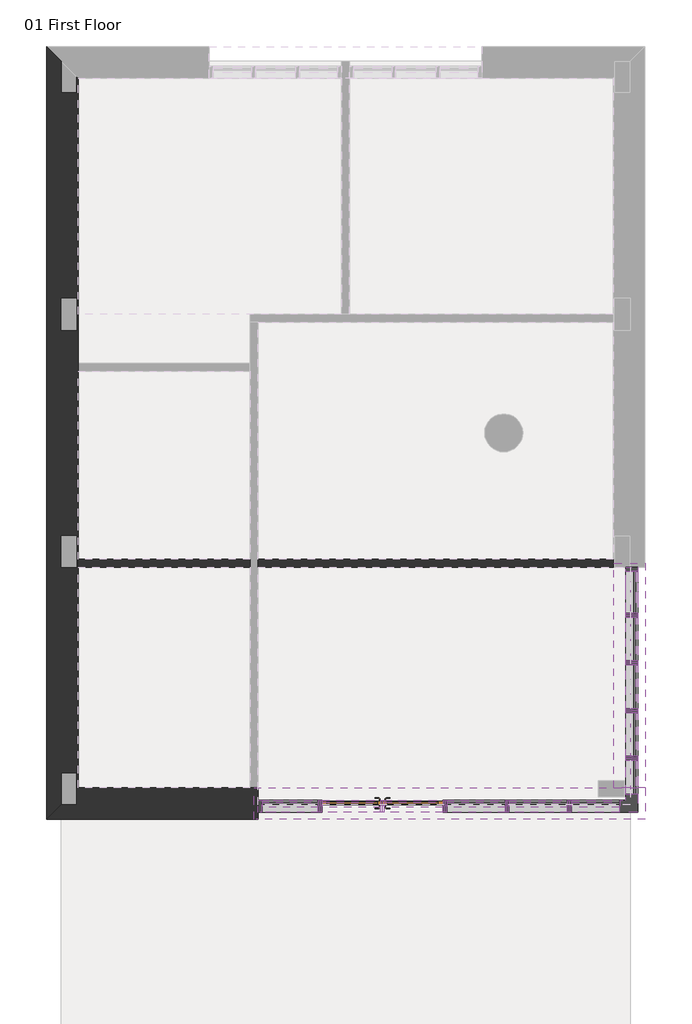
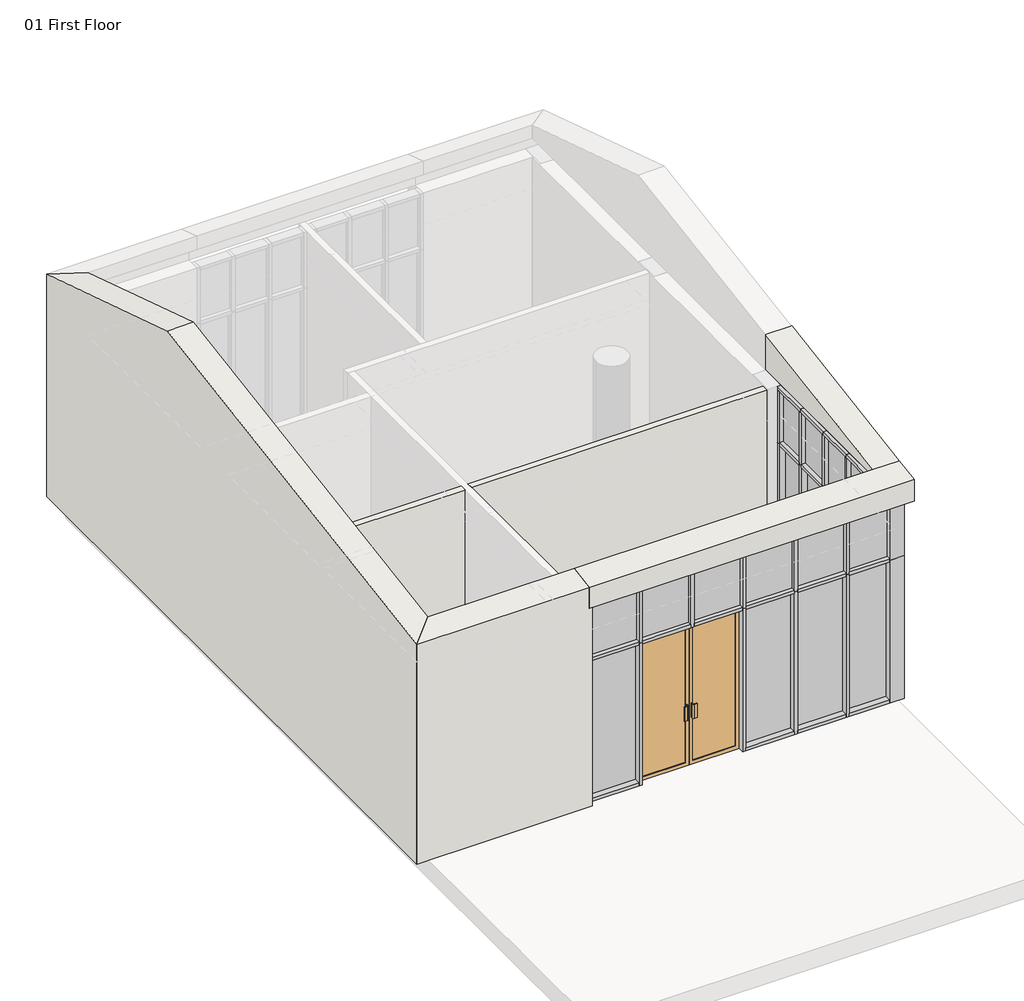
# One storey, part 1 of 2: 54 members, 20 plates, 5 walls, 1 door.
"""IFC4 building model written with IfcOpenShell, lengths in millimetres."""

from ifc_helpers import new_model, si_unit, frame, origin, place, context, project, spatial, polyline, outline, extrude, faceted_brep, transform, mapped, element, save
from components import m_door_curtain_wall_double_storefront_m_door_curtain_wall_8dde1bc9, l_corner_mullion_l_mullion_1_1d961c4e, l_corner_mullion_l_mullion_1_b63ad59a, rectangular_mullion_50_x_150mm_324a6438, rectangular_mullion_50_x_150mm_8753ce05, rectangular_mullion_50_x_150mm_f70f74d1, rectangular_mullion_50_x_150mm_f478ca5a, rectangular_mullion_50_x_150mm_1075d9c1, rectangular_mullion_50_x_150mm_44fe3089, rectangular_mullion_50_x_150mm_80f63b0b, rectangular_mullion_50_x_150mm_db5acec3, rectangular_mullion_50_x_150mm_cae2f493, rectangular_mullion_50_x_150mm_9a38d7ad, rectangular_mullion_50_x_150mm_a8401840, rectangular_mullion_50_x_150mm_3184acce, rectangular_mullion_50_x_150mm_4e612c1a, rectangular_mullion_50_x_150mm_7d2f3f35, rectangular_mullion_50_x_150mm_7a805af3, rectangular_mullion_50_x_150mm_b6bf1841, rectangular_mullion_50_x_150mm_342cd1b8, rectangular_mullion_50_x_150mm_27f82533, rectangular_mullion_50_x_150mm_39193753, rectangular_mullion_50_x_150mm_15dee4e3, rectangular_mullion_50_x_150mm_f704ff47, rectangular_mullion_50_x_150mm_af0ba744, rectangular_mullion_50_x_150mm_731e338c, system_panel_glazed_6aca887c, system_panel_glazed_76cff112, system_panel_glazed_0cbce7a5, system_panel_glazed_834570a4, system_panel_glazed_a0e57360, system_panel_glazed_11854295, system_panel_solid_ce425cba, system_panel_solid_9ac85d2e, system_panel_solid_fdd704db, system_panel_solid_505ec3b0, system_panel_solid_37a388a8, system_panel_solid_d4510be5

model = new_model("IFC4")

# Units and contexts
model_context = context("Model", 3, world=origin())
ifc_project = project(units=[si_unit("LENGTHUNIT", "METRE", prefix="MILLI")], contexts=[model_context])

# Site, building, storey
site = spatial("IfcSite", under=ifc_project)
building = spatial("IfcBuilding", under=site)
storey = spatial("IfcBuildingStorey", under=building, Name="01 First Floor", Elevation=3500.0)

# Door
placement = place(None, origin())
m_door_curtain_wall_double_storefront_m_door_curtain_wall_shape = m_door_curtain_wall_double_storefront_m_door_curtain_wall_8dde1bc9(model_context)
element("IfcDoor", 1, ObjectType="M_Door-Curtain-Wall-Double-Storefront : M_Door-Curtain-Wall-Double-Storefront", at=placement, inside=storey, context=model_context, shape_type="MappedRepresentation", body=[
    mapped(m_door_curtain_wall_double_storefront_m_door_curtain_wall_shape, transform((-4255.8741332, -3082.7101648, 3500.0), x_axis=(1.0, 0.0, 0.0), y_axis=(0.0, 1.0, 0.0), z_axis=(0.0, 0.0, 1.0))),
])

# Members
l_corner_mullion_l_mullion_1_shape = l_corner_mullion_l_mullion_1_1d961c4e(model_context)
element("IfcMember", 2, ObjectType="L Corner Mullion : L Mullion 1", at=placement, inside=storey, context=model_context, shape_type="MappedRepresentation", body=[
    mapped(l_corner_mullion_l_mullion_1_shape, transform((-1102.5407999, -3082.7101648, 5800.0), x_axis=(0.0, -1.0, 0.0), y_axis=(1.0, 0.0, 0.0), z_axis=(0.0, 0.0, 1.0))),
])
l_corner_mullion_l_mullion_1_2_shape = l_corner_mullion_l_mullion_1_b63ad59a(model_context)
element("IfcMember", 3, ObjectType="L Corner Mullion : L Mullion 1", at=placement, inside=storey, context=model_context, shape_type="MappedRepresentation", body=[
    mapped(l_corner_mullion_l_mullion_1_2_shape, transform((-1102.5407999, -3082.7101648, 6700.0), x_axis=(0.0, -1.0, 0.0), y_axis=(1.0, 0.0, 0.0), z_axis=(0.0, 0.0, 1.0))),
])
rectangular_mullion_50_x_150mm_shape = rectangular_mullion_50_x_150mm_324a6438(model_context)
element("IfcMember", 4, ObjectType="Rectangular Mullion : 50 x 150mm", at=placement, inside=storey, context=model_context, shape_type="MappedRepresentation", body=[
    mapped(rectangular_mullion_50_x_150mm_shape, transform((-5832.5407999, -3082.7101648, 6650.0), x_axis=(-1.0, 0.0, 0.0), y_axis=(0.0, -1.0, 0.0), z_axis=(0.0, 0.0, 1.0))),
])
rectangular_mullion_50_x_150mm_2_shape = rectangular_mullion_50_x_150mm_8753ce05(model_context)
element("IfcMember", 5, ObjectType="Rectangular Mullion : 50 x 150mm", at=placement, inside=storey, context=model_context, shape_type="MappedRepresentation", body=[
    mapped(rectangular_mullion_50_x_150mm_2_shape, transform((-5832.5407999, -3082.7101648, 5800.0), x_axis=(-1.0, 0.0, 0.0), y_axis=(0.0, -1.0, 0.0), z_axis=(0.0, 0.0, 1.0))),
])
rectangular_mullion_50_x_150mm_3_shape = rectangular_mullion_50_x_150mm_f70f74d1(model_context)
element("IfcMember", 6, ObjectType="Rectangular Mullion : 50 x 150mm", at=placement, inside=storey, context=model_context, shape_type="MappedRepresentation", body=[
    mapped(rectangular_mullion_50_x_150mm_3_shape, transform((-5044.2074664, -3082.7101648, 3500.0), x_axis=(1.0, 0.0, 0.0), y_axis=(0.0, -1.0, 0.0), z_axis=(0.0, 0.0, -1.0))),
])
element("IfcMember", 7, ObjectType="Rectangular Mullion : 50 x 150mm", at=placement, inside=storey, context=model_context, shape_type="MappedRepresentation", body=[
    mapped(rectangular_mullion_50_x_150mm_3_shape, transform((-3467.5407999, -3082.7101648, 3500.0), x_axis=(1.0, 0.0, 0.0), y_axis=(0.0, -1.0, 0.0), z_axis=(0.0, 0.0, -1.0))),
])
element("IfcMember", 8, ObjectType="Rectangular Mullion : 50 x 150mm", at=placement, inside=storey, context=model_context, shape_type="MappedRepresentation", body=[
    mapped(rectangular_mullion_50_x_150mm_3_shape, transform((-2679.2074667, -3082.7101648, 3500.0), x_axis=(1.0, 0.0, 0.0), y_axis=(0.0, -1.0, 0.0), z_axis=(0.0, 0.0, -1.0))),
])
element("IfcMember", 9, ObjectType="Rectangular Mullion : 50 x 150mm", at=placement, inside=storey, context=model_context, shape_type="MappedRepresentation", body=[
    mapped(rectangular_mullion_50_x_150mm_3_shape, transform((-1890.8741335, -3082.7101648, 3500.0), x_axis=(1.0, 0.0, 0.0), y_axis=(0.0, -1.0, 0.0), z_axis=(0.0, 0.0, -1.0))),
])
rectangular_mullion_50_x_150mm_4_shape = rectangular_mullion_50_x_150mm_f478ca5a(model_context)
element("IfcMember", 10, ObjectType="Rectangular Mullion : 50 x 150mm", at=placement, inside=storey, context=model_context, shape_type="MappedRepresentation", body=[
    mapped(rectangular_mullion_50_x_150mm_4_shape, transform((-5044.2074664, -3082.7101648, 5800.0), x_axis=(1.0, 0.0, 0.0), y_axis=(0.0, -1.0, 0.0), z_axis=(0.0, 0.0, -1.0))),
])
element("IfcMember", 11, ObjectType="Rectangular Mullion : 50 x 150mm", at=placement, inside=storey, context=model_context, shape_type="MappedRepresentation", body=[
    mapped(rectangular_mullion_50_x_150mm_4_shape, transform((-3467.5407999, -3082.7101648, 5800.0), x_axis=(1.0, 0.0, 0.0), y_axis=(0.0, -1.0, 0.0), z_axis=(0.0, 0.0, -1.0))),
])
element("IfcMember", 12, ObjectType="Rectangular Mullion : 50 x 150mm", at=placement, inside=storey, context=model_context, shape_type="MappedRepresentation", body=[
    mapped(rectangular_mullion_50_x_150mm_4_shape, transform((-2679.2074667, -3082.7101648, 5800.0), x_axis=(1.0, 0.0, 0.0), y_axis=(0.0, -1.0, 0.0), z_axis=(0.0, 0.0, -1.0))),
])
element("IfcMember", 13, ObjectType="Rectangular Mullion : 50 x 150mm", at=placement, inside=storey, context=model_context, shape_type="MappedRepresentation", body=[
    mapped(rectangular_mullion_50_x_150mm_4_shape, transform((-1890.8741335, -3082.7101648, 5800.0), x_axis=(1.0, 0.0, 0.0), y_axis=(0.0, -1.0, 0.0), z_axis=(0.0, 0.0, -1.0))),
])
rectangular_mullion_50_x_150mm_5_shape = rectangular_mullion_50_x_150mm_1075d9c1(model_context)
element("IfcMember", 14, ObjectType="Rectangular Mullion : 50 x 150mm", at=placement, inside=storey, context=model_context, shape_type="MappedRepresentation", body=[
    mapped(rectangular_mullion_50_x_150mm_5_shape, transform((-4255.8741332, -3082.7101648, 5775.0), x_axis=(1.0, 0.0, 0.0), y_axis=(0.0, -1.0, 0.0), z_axis=(0.0, 0.0, -1.0))),
])
element("IfcMember", 15, ObjectType="Rectangular Mullion : 50 x 150mm", at=placement, inside=storey, context=model_context, shape_type="MappedRepresentation", body=[
    mapped(rectangular_mullion_50_x_150mm_3_shape, transform((-1102.5407999, -2478.7101646, 3500.0), x_axis=(0.0, 1.0, 0.0), y_axis=(1.0, 0.0, 0.0), z_axis=(0.0, 0.0, -1.0))),
])
element("IfcMember", 16, ObjectType="Rectangular Mullion : 50 x 150mm", at=placement, inside=storey, context=model_context, shape_type="MappedRepresentation", body=[
    mapped(rectangular_mullion_50_x_150mm_3_shape, transform((-1102.5407999, -1874.7101647, 3500.0), x_axis=(0.0, 1.0, 0.0), y_axis=(1.0, 0.0, 0.0), z_axis=(0.0, 0.0, -1.0))),
])
element("IfcMember", 17, ObjectType="Rectangular Mullion : 50 x 150mm", at=placement, inside=storey, context=model_context, shape_type="MappedRepresentation", body=[
    mapped(rectangular_mullion_50_x_150mm_3_shape, transform((-1102.5407999, -1270.7101648, 3500.0), x_axis=(0.0, 1.0, 0.0), y_axis=(1.0, 0.0, 0.0), z_axis=(0.0, 0.0, -1.0))),
])
element("IfcMember", 18, ObjectType="Rectangular Mullion : 50 x 150mm", at=placement, inside=storey, context=model_context, shape_type="MappedRepresentation", body=[
    mapped(rectangular_mullion_50_x_150mm_3_shape, transform((-1102.5407999, -666.7101649, 3500.0), x_axis=(0.0, 1.0, 0.0), y_axis=(1.0, 0.0, 0.0), z_axis=(0.0, 0.0, -1.0))),
])
element("IfcMember", 19, ObjectType="Rectangular Mullion : 50 x 150mm", at=placement, inside=storey, context=model_context, shape_type="MappedRepresentation", body=[
    mapped(rectangular_mullion_50_x_150mm_2_shape, transform((-1102.5407999, -62.7101648, 3500.0), x_axis=(0.0, 1.0, 0.0), y_axis=(1.0, 0.0, 0.0), z_axis=(0.0, 0.0, -1.0))),
])
element("IfcMember", 20, ObjectType="Rectangular Mullion : 50 x 150mm", at=placement, inside=storey, context=model_context, shape_type="MappedRepresentation", body=[
    mapped(rectangular_mullion_50_x_150mm_4_shape, transform((-1102.5407999, -2478.7101646, 5800.0), x_axis=(0.0, 1.0, 0.0), y_axis=(1.0, 0.0, 0.0), z_axis=(0.0, 0.0, -1.0))),
])
element("IfcMember", 21, ObjectType="Rectangular Mullion : 50 x 150mm", at=placement, inside=storey, context=model_context, shape_type="MappedRepresentation", body=[
    mapped(rectangular_mullion_50_x_150mm_4_shape, transform((-1102.5407999, -1874.7101647, 5800.0), x_axis=(0.0, 1.0, 0.0), y_axis=(1.0, 0.0, 0.0), z_axis=(0.0, 0.0, -1.0))),
])
element("IfcMember", 22, ObjectType="Rectangular Mullion : 50 x 150mm", at=placement, inside=storey, context=model_context, shape_type="MappedRepresentation", body=[
    mapped(rectangular_mullion_50_x_150mm_4_shape, transform((-1102.5407999, -1270.7101648, 5800.0), x_axis=(0.0, 1.0, 0.0), y_axis=(1.0, 0.0, 0.0), z_axis=(0.0, 0.0, -1.0))),
])
element("IfcMember", 23, ObjectType="Rectangular Mullion : 50 x 150mm", at=placement, inside=storey, context=model_context, shape_type="MappedRepresentation", body=[
    mapped(rectangular_mullion_50_x_150mm_4_shape, transform((-1102.5407999, -666.7101649, 5800.0), x_axis=(0.0, 1.0, 0.0), y_axis=(1.0, 0.0, 0.0), z_axis=(0.0, 0.0, -1.0))),
])
element("IfcMember", 24, ObjectType="Rectangular Mullion : 50 x 150mm", at=placement, inside=storey, context=model_context, shape_type="MappedRepresentation", body=[
    mapped(rectangular_mullion_50_x_150mm_shape, transform((-1102.5407999, -62.7101648, 5800.0), x_axis=(0.0, 1.0, 0.0), y_axis=(1.0, 0.0, 0.0), z_axis=(0.0, 0.0, -1.0))),
])
rectangular_mullion_50_x_150mm_6_shape = rectangular_mullion_50_x_150mm_44fe3089(model_context)
element("IfcMember", 25, ObjectType="Rectangular Mullion : 50 x 150mm", at=placement, inside=storey, context=model_context, shape_type="MappedRepresentation", body=[
    mapped(rectangular_mullion_50_x_150mm_6_shape, transform((-1252.5407999, -3082.7101648, 6700.0), x_axis=(0.0, 0.0, 1.0), y_axis=(0.0, -1.0, 0.0), z_axis=(1.0, 0.0, 0.0))),
])
rectangular_mullion_50_x_150mm_7_shape = rectangular_mullion_50_x_150mm_80f63b0b(model_context)
element("IfcMember", 26, ObjectType="Rectangular Mullion : 50 x 150mm", at=placement, inside=storey, context=model_context, shape_type="MappedRepresentation", body=[
    mapped(rectangular_mullion_50_x_150mm_7_shape, transform((-5782.5407999, -3082.7101648, 3500.0), x_axis=(0.0, 0.0, -1.0), y_axis=(0.0, -1.0, 0.0), z_axis=(-1.0, 0.0, 0.0))),
])
rectangular_mullion_50_x_150mm_8_shape = rectangular_mullion_50_x_150mm_db5acec3(model_context)
element("IfcMember", 27, ObjectType="Rectangular Mullion : 50 x 150mm", at=placement, inside=storey, context=model_context, shape_type="MappedRepresentation", body=[
    mapped(rectangular_mullion_50_x_150mm_8_shape, transform((-5044.2074664, -3082.7101648, 6700.0), x_axis=(0.0, 0.0, 1.0), y_axis=(0.0, -1.0, 0.0), z_axis=(1.0, 0.0, 0.0))),
])
rectangular_mullion_50_x_150mm_9_shape = rectangular_mullion_50_x_150mm_cae2f493(model_context)
element("IfcMember", 28, ObjectType="Rectangular Mullion : 50 x 150mm", at=placement, inside=storey, context=model_context, shape_type="MappedRepresentation", body=[
    mapped(rectangular_mullion_50_x_150mm_9_shape, transform((-4255.8741332, -3082.7101648, 6700.0), x_axis=(0.0, 0.0, 1.0), y_axis=(0.0, -1.0, 0.0), z_axis=(1.0, 0.0, 0.0))),
])
element("IfcMember", 29, ObjectType="Rectangular Mullion : 50 x 150mm", at=placement, inside=storey, context=model_context, shape_type="MappedRepresentation", body=[
    mapped(rectangular_mullion_50_x_150mm_9_shape, transform((-3467.5407999, -3082.7101648, 6700.0), x_axis=(0.0, 0.0, 1.0), y_axis=(0.0, -1.0, 0.0), z_axis=(1.0, 0.0, 0.0))),
])
element("IfcMember", 30, ObjectType="Rectangular Mullion : 50 x 150mm", at=placement, inside=storey, context=model_context, shape_type="MappedRepresentation", body=[
    mapped(rectangular_mullion_50_x_150mm_9_shape, transform((-2679.2074667, -3082.7101648, 6700.0), x_axis=(0.0, 0.0, 1.0), y_axis=(0.0, -1.0, 0.0), z_axis=(1.0, 0.0, 0.0))),
])
element("IfcMember", 31, ObjectType="Rectangular Mullion : 50 x 150mm", at=placement, inside=storey, context=model_context, shape_type="MappedRepresentation", body=[
    mapped(rectangular_mullion_50_x_150mm_9_shape, transform((-1890.8741335, -3082.7101648, 6700.0), x_axis=(0.0, 0.0, 1.0), y_axis=(0.0, -1.0, 0.0), z_axis=(1.0, 0.0, 0.0))),
])
rectangular_mullion_50_x_150mm_10_shape = rectangular_mullion_50_x_150mm_9a38d7ad(model_context)
element("IfcMember", 32, ObjectType="Rectangular Mullion : 50 x 150mm", at=placement, inside=storey, context=model_context, shape_type="MappedRepresentation", body=[
    mapped(rectangular_mullion_50_x_150mm_10_shape, transform((-3442.5407999, -3082.7101648, 3500.0), x_axis=(0.0, 0.0, -1.0), y_axis=(0.0, -1.0, 0.0), z_axis=(-1.0, 0.0, 0.0))),
])
element("IfcMember", 33, ObjectType="Rectangular Mullion : 50 x 150mm", at=placement, inside=storey, context=model_context, shape_type="MappedRepresentation", body=[
    mapped(rectangular_mullion_50_x_150mm_10_shape, transform((-2654.2074667, -3082.7101648, 3500.0), x_axis=(0.0, 0.0, -1.0), y_axis=(0.0, -1.0, 0.0), z_axis=(-1.0, 0.0, 0.0))),
])
rectangular_mullion_50_x_150mm_11_shape = rectangular_mullion_50_x_150mm_a8401840(model_context)
element("IfcMember", 34, ObjectType="Rectangular Mullion : 50 x 150mm", at=placement, inside=storey, context=model_context, shape_type="MappedRepresentation", body=[
    mapped(rectangular_mullion_50_x_150mm_11_shape, transform((-5069.2074664, -3082.7101648, 5800.0), x_axis=(0.0, 0.0, 1.0), y_axis=(0.0, -1.0, 0.0), z_axis=(1.0, 0.0, 0.0))),
])
rectangular_mullion_50_x_150mm_12_shape = rectangular_mullion_50_x_150mm_3184acce(model_context)
element("IfcMember", 35, ObjectType="Rectangular Mullion : 50 x 150mm", at=placement, inside=storey, context=model_context, shape_type="MappedRepresentation", body=[
    mapped(rectangular_mullion_50_x_150mm_12_shape, transform((-4280.8741332, -3082.7101648, 5800.0), x_axis=(0.0, 0.0, 1.0), y_axis=(0.0, -1.0, 0.0), z_axis=(1.0, 0.0, 0.0))),
])
element("IfcMember", 36, ObjectType="Rectangular Mullion : 50 x 150mm", at=placement, inside=storey, context=model_context, shape_type="MappedRepresentation", body=[
    mapped(rectangular_mullion_50_x_150mm_12_shape, transform((-3492.5407999, -3082.7101648, 5800.0), x_axis=(0.0, 0.0, 1.0), y_axis=(0.0, -1.0, 0.0), z_axis=(1.0, 0.0, 0.0))),
])
element("IfcMember", 37, ObjectType="Rectangular Mullion : 50 x 150mm", at=placement, inside=storey, context=model_context, shape_type="MappedRepresentation", body=[
    mapped(rectangular_mullion_50_x_150mm_12_shape, transform((-2704.2074667, -3082.7101648, 5800.0), x_axis=(0.0, 0.0, 1.0), y_axis=(0.0, -1.0, 0.0), z_axis=(1.0, 0.0, 0.0))),
])
element("IfcMember", 38, ObjectType="Rectangular Mullion : 50 x 150mm", at=placement, inside=storey, context=model_context, shape_type="MappedRepresentation", body=[
    mapped(rectangular_mullion_50_x_150mm_12_shape, transform((-1915.8741335, -3082.7101648, 5800.0), x_axis=(0.0, 0.0, 1.0), y_axis=(0.0, -1.0, 0.0), z_axis=(1.0, 0.0, 0.0))),
])
rectangular_mullion_50_x_150mm_13_shape = rectangular_mullion_50_x_150mm_4e612c1a(model_context)
element("IfcMember", 39, ObjectType="Rectangular Mullion : 50 x 150mm", at=placement, inside=storey, context=model_context, shape_type="MappedRepresentation", body=[
    mapped(rectangular_mullion_50_x_150mm_13_shape, transform((-1865.8741335, -3082.7101648, 3500.0), x_axis=(0.0, 0.0, -1.0), y_axis=(0.0, -1.0, 0.0), z_axis=(-1.0, 0.0, 0.0))),
])
rectangular_mullion_50_x_150mm_14_shape = rectangular_mullion_50_x_150mm_7d2f3f35(model_context)
element("IfcMember", 40, ObjectType="Rectangular Mullion : 50 x 150mm", at=placement, inside=storey, context=model_context, shape_type="MappedRepresentation", body=[
    mapped(rectangular_mullion_50_x_150mm_14_shape, transform((-1252.5407999, -3082.7101648, 5800.0), x_axis=(0.0, 0.0, 1.0), y_axis=(0.0, -1.0, 0.0), z_axis=(1.0, 0.0, 0.0))),
])
rectangular_mullion_50_x_150mm_15_shape = rectangular_mullion_50_x_150mm_7a805af3(model_context)
element("IfcMember", 41, ObjectType="Rectangular Mullion : 50 x 150mm", at=placement, inside=storey, context=model_context, shape_type="MappedRepresentation", body=[
    mapped(rectangular_mullion_50_x_150mm_15_shape, transform((-1102.5407999, -62.7101648, 6700.0), x_axis=(0.0, 0.0, 1.0), y_axis=(1.0, 0.0, 0.0), z_axis=(0.0, 1.0, 0.0))),
])
rectangular_mullion_50_x_150mm_16_shape = rectangular_mullion_50_x_150mm_b6bf1841(model_context)
element("IfcMember", 42, ObjectType="Rectangular Mullion : 50 x 150mm", at=placement, inside=storey, context=model_context, shape_type="MappedRepresentation", body=[
    mapped(rectangular_mullion_50_x_150mm_16_shape, transform((-1102.5407999, -2932.7101648, 3500.0), x_axis=(0.0, 0.0, -1.0), y_axis=(1.0, 0.0, 0.0), z_axis=(0.0, -1.0, 0.0))),
])
rectangular_mullion_50_x_150mm_17_shape = rectangular_mullion_50_x_150mm_342cd1b8(model_context)
element("IfcMember", 43, ObjectType="Rectangular Mullion : 50 x 150mm", at=placement, inside=storey, context=model_context, shape_type="MappedRepresentation", body=[
    mapped(rectangular_mullion_50_x_150mm_17_shape, transform((-1102.5407999, -2478.7101646, 6700.0), x_axis=(0.0, 0.0, 1.0), y_axis=(1.0, 0.0, 0.0), z_axis=(0.0, 1.0, 0.0))),
])
rectangular_mullion_50_x_150mm_18_shape = rectangular_mullion_50_x_150mm_27f82533(model_context)
element("IfcMember", 44, ObjectType="Rectangular Mullion : 50 x 150mm", at=placement, inside=storey, context=model_context, shape_type="MappedRepresentation", body=[
    mapped(rectangular_mullion_50_x_150mm_18_shape, transform((-1102.5407999, -1874.7101647, 6700.0), x_axis=(0.0, 0.0, 1.0), y_axis=(1.0, 0.0, 0.0), z_axis=(0.0, 1.0, 0.0))),
])
element("IfcMember", 45, ObjectType="Rectangular Mullion : 50 x 150mm", at=placement, inside=storey, context=model_context, shape_type="MappedRepresentation", body=[
    mapped(rectangular_mullion_50_x_150mm_18_shape, transform((-1102.5407999, -1270.7101648, 6700.0), x_axis=(0.0, 0.0, 1.0), y_axis=(1.0, 0.0, 0.0), z_axis=(0.0, 1.0, 0.0))),
])
element("IfcMember", 46, ObjectType="Rectangular Mullion : 50 x 150mm", at=placement, inside=storey, context=model_context, shape_type="MappedRepresentation", body=[
    mapped(rectangular_mullion_50_x_150mm_18_shape, transform((-1102.5407999, -666.7101649, 6700.0), x_axis=(0.0, 0.0, 1.0), y_axis=(1.0, 0.0, 0.0), z_axis=(0.0, 1.0, 0.0))),
])
rectangular_mullion_50_x_150mm_19_shape = rectangular_mullion_50_x_150mm_39193753(model_context)
element("IfcMember", 47, ObjectType="Rectangular Mullion : 50 x 150mm", at=placement, inside=storey, context=model_context, shape_type="MappedRepresentation", body=[
    mapped(rectangular_mullion_50_x_150mm_19_shape, transform((-1102.5407999, -2453.7101646, 3500.0), x_axis=(0.0, 0.0, -1.0), y_axis=(1.0, 0.0, 0.0), z_axis=(0.0, -1.0, 0.0))),
])
element("IfcMember", 48, ObjectType="Rectangular Mullion : 50 x 150mm", at=placement, inside=storey, context=model_context, shape_type="MappedRepresentation", body=[
    mapped(rectangular_mullion_50_x_150mm_19_shape, transform((-1102.5407999, -1849.7101647, 3500.0), x_axis=(0.0, 0.0, -1.0), y_axis=(1.0, 0.0, 0.0), z_axis=(0.0, -1.0, 0.0))),
])
element("IfcMember", 49, ObjectType="Rectangular Mullion : 50 x 150mm", at=placement, inside=storey, context=model_context, shape_type="MappedRepresentation", body=[
    mapped(rectangular_mullion_50_x_150mm_19_shape, transform((-1102.5407999, -1245.7101648, 3500.0), x_axis=(0.0, 0.0, -1.0), y_axis=(1.0, 0.0, 0.0), z_axis=(0.0, -1.0, 0.0))),
])
rectangular_mullion_50_x_150mm_20_shape = rectangular_mullion_50_x_150mm_15dee4e3(model_context)
element("IfcMember", 50, ObjectType="Rectangular Mullion : 50 x 150mm", at=placement, inside=storey, context=model_context, shape_type="MappedRepresentation", body=[
    mapped(rectangular_mullion_50_x_150mm_20_shape, transform((-1102.5407999, -641.7101649, 3500.0), x_axis=(0.0, 0.0, -1.0), y_axis=(1.0, 0.0, 0.0), z_axis=(0.0, -1.0, 0.0))),
])
rectangular_mullion_50_x_150mm_21_shape = rectangular_mullion_50_x_150mm_f704ff47(model_context)
element("IfcMember", 51, ObjectType="Rectangular Mullion : 50 x 150mm", at=placement, inside=storey, context=model_context, shape_type="MappedRepresentation", body=[
    mapped(rectangular_mullion_50_x_150mm_21_shape, transform((-1102.5407999, -2503.7101646, 5800.0), x_axis=(0.0, 0.0, 1.0), y_axis=(1.0, 0.0, 0.0), z_axis=(0.0, 1.0, 0.0))),
])
rectangular_mullion_50_x_150mm_22_shape = rectangular_mullion_50_x_150mm_af0ba744(model_context)
element("IfcMember", 52, ObjectType="Rectangular Mullion : 50 x 150mm", at=placement, inside=storey, context=model_context, shape_type="MappedRepresentation", body=[
    mapped(rectangular_mullion_50_x_150mm_22_shape, transform((-1102.5407999, -1899.7101647, 5800.0), x_axis=(0.0, 0.0, 1.0), y_axis=(1.0, 0.0, 0.0), z_axis=(0.0, 1.0, 0.0))),
])
element("IfcMember", 53, ObjectType="Rectangular Mullion : 50 x 150mm", at=placement, inside=storey, context=model_context, shape_type="MappedRepresentation", body=[
    mapped(rectangular_mullion_50_x_150mm_22_shape, transform((-1102.5407999, -1295.7101648, 5800.0), x_axis=(0.0, 0.0, 1.0), y_axis=(1.0, 0.0, 0.0), z_axis=(0.0, 1.0, 0.0))),
])
element("IfcMember", 54, ObjectType="Rectangular Mullion : 50 x 150mm", at=placement, inside=storey, context=model_context, shape_type="MappedRepresentation", body=[
    mapped(rectangular_mullion_50_x_150mm_22_shape, transform((-1102.5407999, -691.7101649, 5800.0), x_axis=(0.0, 0.0, 1.0), y_axis=(1.0, 0.0, 0.0), z_axis=(0.0, 1.0, 0.0))),
])
rectangular_mullion_50_x_150mm_23_shape = rectangular_mullion_50_x_150mm_731e338c(model_context)
element("IfcMember", 55, ObjectType="Rectangular Mullion : 50 x 150mm", at=placement, inside=storey, context=model_context, shape_type="MappedRepresentation", body=[
    mapped(rectangular_mullion_50_x_150mm_23_shape, transform((-1102.5407999, -112.7101648, 5800.0), x_axis=(0.0, 0.0, 1.0), y_axis=(1.0, 0.0, 0.0), z_axis=(0.0, 1.0, 0.0))),
])

# Plates
system_panel_glazed_shape = system_panel_glazed_6aca887c(model_context)
element("IfcPlate", 56, ObjectType="System Panel : Glazed", at=placement, inside=storey, context=model_context, shape_type="MappedRepresentation", body=[
    mapped(system_panel_glazed_shape, transform((-5425.8741332, -3082.7101648, 3550.0), x_axis=(1.0, 0.0, 0.0), y_axis=(0.0, 1.0, 0.0), z_axis=(0.0, 0.0, 1.0))),
])
system_panel_glazed_2_shape = system_panel_glazed_76cff112(model_context)
element("IfcPlate", 57, ObjectType="System Panel : Glazed", at=placement, inside=storey, context=model_context, shape_type="MappedRepresentation", body=[
    mapped(system_panel_glazed_2_shape, transform((-3073.3741333, -3082.7101648, 3550.0), x_axis=(1.0, 0.0, 0.0), y_axis=(0.0, 1.0, 0.0), z_axis=(0.0, 0.0, 1.0))),
])
element("IfcPlate", 58, ObjectType="System Panel : Glazed", at=placement, inside=storey, context=model_context, shape_type="MappedRepresentation", body=[
    mapped(system_panel_glazed_2_shape, transform((-2285.0408001, -3082.7101648, 3550.0), x_axis=(1.0, 0.0, 0.0), y_axis=(0.0, 1.0, 0.0), z_axis=(0.0, 0.0, 1.0))),
])
system_panel_glazed_3_shape = system_panel_glazed_0cbce7a5(model_context)
element("IfcPlate", 59, ObjectType="System Panel : Glazed", at=placement, inside=storey, context=model_context, shape_type="MappedRepresentation", body=[
    mapped(system_panel_glazed_3_shape, transform((-1559.2074667, -3082.7101648, 3550.0), x_axis=(1.0, 0.0, 0.0), y_axis=(0.0, 1.0, 0.0), z_axis=(0.0, 0.0, 1.0))),
])
system_panel_glazed_4_shape = system_panel_glazed_834570a4(model_context)
element("IfcPlate", 60, ObjectType="System Panel : Glazed", at=placement, inside=storey, context=model_context, shape_type="MappedRepresentation", body=[
    mapped(system_panel_glazed_4_shape, transform((-1102.5407999, -2718.2101647, 3550.0), x_axis=(0.0, 1.0, 0.0), y_axis=(-1.0, 0.0, 0.0), z_axis=(0.0, 0.0, 1.0))),
])
system_panel_glazed_5_shape = system_panel_glazed_a0e57360(model_context)
element("IfcPlate", 61, ObjectType="System Panel : Glazed", at=placement, inside=storey, context=model_context, shape_type="MappedRepresentation", body=[
    mapped(system_panel_glazed_5_shape, transform((-1102.5407999, -2176.7101646, 3550.0), x_axis=(0.0, 1.0, 0.0), y_axis=(-1.0, 0.0, 0.0), z_axis=(0.0, 0.0, 1.0))),
])
element("IfcPlate", 62, ObjectType="System Panel : Glazed", at=placement, inside=storey, context=model_context, shape_type="MappedRepresentation", body=[
    mapped(system_panel_glazed_5_shape, transform((-1102.5407999, -1572.7101648, 3550.0), x_axis=(0.0, 1.0, 0.0), y_axis=(-1.0, 0.0, 0.0), z_axis=(0.0, 0.0, 1.0))),
])
element("IfcPlate", 63, ObjectType="System Panel : Glazed", at=placement, inside=storey, context=model_context, shape_type="MappedRepresentation", body=[
    mapped(system_panel_glazed_5_shape, transform((-1102.5407999, -968.7101649, 3550.0), x_axis=(0.0, 1.0, 0.0), y_axis=(-1.0, 0.0, 0.0), z_axis=(0.0, 0.0, 1.0))),
])
system_panel_glazed_6_shape = system_panel_glazed_11854295(model_context)
element("IfcPlate", 64, ObjectType="System Panel : Glazed", at=placement, inside=storey, context=model_context, shape_type="MappedRepresentation", body=[
    mapped(system_panel_glazed_6_shape, transform((-1102.5407999, -377.2101649, 3550.0), x_axis=(0.0, 1.0, 0.0), y_axis=(-1.0, 0.0, 0.0), z_axis=(0.0, 0.0, 1.0))),
])
system_panel_solid_shape = system_panel_solid_ce425cba(model_context)
element("IfcPlate", 65, ObjectType="System Panel : Solid", at=placement, inside=storey, context=model_context, shape_type="MappedRepresentation", body=[
    mapped(system_panel_solid_shape, transform((-5425.8741332, -3082.7101648, 5825.0), x_axis=(1.0, 0.0, 0.0), y_axis=(0.0, 1.0, 0.0), z_axis=(0.0, 0.0, 1.0))),
])
system_panel_solid_2_shape = system_panel_solid_9ac85d2e(model_context)
element("IfcPlate", 66, ObjectType="System Panel : Solid", at=placement, inside=storey, context=model_context, shape_type="MappedRepresentation", body=[
    mapped(system_panel_solid_2_shape, transform((-4650.0407998, -3082.7101648, 5825.0), x_axis=(1.0, 0.0, 0.0), y_axis=(0.0, 1.0, 0.0), z_axis=(0.0, 0.0, 1.0))),
])
element("IfcPlate", 67, ObjectType="System Panel : Solid", at=placement, inside=storey, context=model_context, shape_type="MappedRepresentation", body=[
    mapped(system_panel_solid_2_shape, transform((-3861.7074666, -3082.7101648, 5825.0), x_axis=(1.0, 0.0, 0.0), y_axis=(0.0, 1.0, 0.0), z_axis=(0.0, 0.0, 1.0))),
])
element("IfcPlate", 68, ObjectType="System Panel : Solid", at=placement, inside=storey, context=model_context, shape_type="MappedRepresentation", body=[
    mapped(system_panel_solid_2_shape, transform((-3073.3741333, -3082.7101648, 5825.0), x_axis=(1.0, 0.0, 0.0), y_axis=(0.0, 1.0, 0.0), z_axis=(0.0, 0.0, 1.0))),
])
element("IfcPlate", 69, ObjectType="System Panel : Solid", at=placement, inside=storey, context=model_context, shape_type="MappedRepresentation", body=[
    mapped(system_panel_solid_2_shape, transform((-2285.0408001, -3082.7101648, 5825.0), x_axis=(1.0, 0.0, 0.0), y_axis=(0.0, 1.0, 0.0), z_axis=(0.0, 0.0, 1.0))),
])
system_panel_solid_3_shape = system_panel_solid_fdd704db(model_context)
element("IfcPlate", 70, ObjectType="System Panel : Solid", at=placement, inside=storey, context=model_context, shape_type="MappedRepresentation", body=[
    mapped(system_panel_solid_3_shape, transform((-1559.2074667, -3082.7101648, 5825.0), x_axis=(1.0, 0.0, 0.0), y_axis=(0.0, 1.0, 0.0), z_axis=(0.0, 0.0, 1.0))),
])
system_panel_solid_4_shape = system_panel_solid_505ec3b0(model_context)
element("IfcPlate", 71, ObjectType="System Panel : Solid", at=placement, inside=storey, context=model_context, shape_type="MappedRepresentation", body=[
    mapped(system_panel_solid_4_shape, transform((-1102.5407999, -2718.2101647, 5825.0), x_axis=(0.0, 1.0, 0.0), y_axis=(-1.0, 0.0, 0.0), z_axis=(0.0, 0.0, 1.0))),
])
system_panel_solid_5_shape = system_panel_solid_37a388a8(model_context)
element("IfcPlate", 72, ObjectType="System Panel : Solid", at=placement, inside=storey, context=model_context, shape_type="MappedRepresentation", body=[
    mapped(system_panel_solid_5_shape, transform((-1102.5407999, -2176.7101646, 5825.0), x_axis=(0.0, 1.0, 0.0), y_axis=(-1.0, 0.0, 0.0), z_axis=(0.0, 0.0, 1.0))),
])
element("IfcPlate", 73, ObjectType="System Panel : Solid", at=placement, inside=storey, context=model_context, shape_type="MappedRepresentation", body=[
    mapped(system_panel_solid_5_shape, transform((-1102.5407999, -1572.7101648, 5825.0), x_axis=(0.0, 1.0, 0.0), y_axis=(-1.0, 0.0, 0.0), z_axis=(0.0, 0.0, 1.0))),
])
element("IfcPlate", 74, ObjectType="System Panel : Solid", at=placement, inside=storey, context=model_context, shape_type="MappedRepresentation", body=[
    mapped(system_panel_solid_5_shape, transform((-1102.5407999, -968.7101649, 5825.0), x_axis=(0.0, 1.0, 0.0), y_axis=(-1.0, 0.0, 0.0), z_axis=(0.0, 0.0, 1.0))),
])
system_panel_solid_6_shape = system_panel_solid_d4510be5(model_context)
element("IfcPlate", 75, ObjectType="System Panel : Solid", at=placement, inside=storey, context=model_context, shape_type="MappedRepresentation", body=[
    mapped(system_panel_solid_6_shape, transform((-1102.5407999, -377.2101649, 5825.0), x_axis=(0.0, 1.0, 0.0), y_axis=(-1.0, 0.0, 0.0), z_axis=(0.0, 0.0, 1.0))),
])

# Walls
element("IfcWall", 76, ObjectType="Exterior - Brick on CMU", at=placement, inside=storey, context=model_context, shape_type="Brep", body=[
    faceted_brep([(-5832.5407999, -2849.7101648, 3500.0), (-5932.5407999, -2849.7101648, 3500.0), (-8109.5407999, -2849.7101648, 3500.0), (-8109.5407999, -2849.7101648, 6700.0), (-5932.5407999, -2849.7101648, 6700.0), (-5832.5407999, -2849.7101648, 6700.0), (-8109.5407999, -2849.7101648, 7106.4671533), (-5882.5407999, -2849.7101648, 7106.4671533), (-5882.5407999, -2849.7101648, 7000.0), (-8109.5407999, -2849.7101648, 7000.0), (-8507.5407999, -3247.7101648, 3500.0), (-5832.5407999, -3247.7101648, 3500.0), (-5832.5407999, -3247.7101648, 6700.0), (-5882.5407999, -3247.7101648, 6700.0), (-5882.5407999, -3247.7101648, 7042.5547445), (-8507.5407999, -3247.7101648, 7042.5547445), (-8322.5407999, -3062.7101648, 3500.0), (-8122.5407999, -3062.7101648, 3500.0), (-8122.5407999, -2862.7101648, 3500.0), (-8322.5407999, -3062.7101648, 7000.0), (-8122.5407999, -2862.7101648, 6700.0), (-8122.5407999, -3062.7101648, 6700.0), (-5882.5407999, -3062.7101648, 7000.0), (-5882.5407999, -3062.7101648, 6700.0)], [[[0, 1, 2, 3, 4, 5]], [[6, 7, 8, 9]], [[10, 11, 12, 13, 14, 15]], [[2, 1, 0, 11, 10, 16, 17, 18]], [[10, 15, 6, 9, 19, 16]], [[2, 18, 20, 3]], [[18, 17, 21, 20]], [[22, 23, 21, 17, 16, 19]], [[22, 19, 9, 8]], [[14, 13, 23, 22, 8, 7]], [[13, 12, 5, 4, 3, 20, 21, 23]], [[11, 0, 5, 12]], [[7, 6, 15, 14]]]),
])
element("IfcWall", 77, ObjectType="Exterior - Brick on CMU", at=placement, inside=storey, context=model_context, shape_type="Brep", body=[
    faceted_brep([(-8109.5407999, 6124.2898352, 7211.3913043), (-8109.5407999, 3337.2898352, 8100.0), (-8109.5407999, -2849.7101648, 7106.4671533), (-8109.5407999, -2849.7101648, 7000.0), (-8109.5407999, 6124.2898352, 7000.0), (-8109.5407999, -2849.7101648, 3500.0), (-8109.5407999, -62.7101648, 3500.0), (-8109.5407999, 37.2898352, 3500.0), (-8109.5407999, 2415.8732706, 3500.0), (-8109.5407999, 2515.8732706, 3500.0), (-8109.5407999, 6124.2898352, 3500.0), (-8109.5407999, 6124.2898352, 6700.0), (-8109.5407999, 2515.8732706, 6700.0), (-8109.5407999, 2415.8732706, 6700.0), (-8109.5407999, 37.2898352, 6700.0), (-8109.5407999, -62.7101648, 6700.0), (-8109.5407999, -2849.7101648, 6700.0), (-8507.5407999, 6522.2898352, 3500.0), (-8507.5407999, -3247.7101648, 3500.0), (-8507.5407999, -3247.7101648, 7042.5547445), (-8507.5407999, 3337.2898352, 8100.0), (-8507.5407999, 6522.2898352, 7084.4927536), (-8122.5407999, -2862.7101648, 3500.0), (-8122.5407999, -2662.7101648, 3500.0), (-8322.5407999, -2662.7101648, 3500.0), (-8322.5407999, -3062.7101648, 3500.0), (-8322.5407999, 6337.2898352, 3500.0), (-8322.5407999, 5937.2898352, 3500.0), (-8122.5407999, 5937.2898352, 3500.0), (-8122.5407999, 6137.2898352, 3500.0), (-8322.5407999, 2937.2898352, 3500.0), (-8122.5407999, 2937.2898352, 3500.0), (-8122.5407999, 3337.2898352, 3500.0), (-8322.5407999, 3337.2898352, 3500.0), (-8322.5407999, -62.7101648, 3500.0), (-8122.5407999, -62.7101648, 3500.0), (-8122.5407999, 337.2898352, 3500.0), (-8322.5407999, 337.2898352, 3500.0), (-8322.5407999, -3062.7101648, 7000.0), (-8122.5407999, -2862.7101648, 6700.0), (-8322.5407999, 6337.2898352, 7000.0), (-8122.5407999, 6137.2898352, 6700.0), (-8322.5407999, 2937.2898352, 6700.0), (-8122.5407999, 2937.2898352, 6700.0), (-8322.5407999, -2662.7101648, 6700.0), (-8322.5407999, -62.7101648, 6700.0), (-8322.5407999, 337.2898352, 6700.0), (-8322.5407999, 3337.2898352, 6700.0), (-8322.5407999, 5937.2898352, 6700.0), (-8122.5407999, 3337.2898352, 6700.0), (-8122.5407999, -62.7101648, 6700.0), (-8122.5407999, 337.2898352, 6700.0), (-8122.5407999, -2662.7101648, 6700.0), (-8122.5407999, 5937.2898352, 6700.0)], [[[0, 1, 2, 3, 4]], [[5, 6, 7, 8, 9, 10, 11, 12, 13, 14, 15, 16]], [[17, 18, 19, 20, 21]], [[10, 9, 8, 7, 6, 5, 22, 23, 24, 25, 18, 17, 26, 27, 28, 29], [30, 31, 32, 33], [34, 35, 36, 37]], [[2, 19, 18, 25, 38, 3]], [[22, 5, 16, 39]], [[17, 21, 0, 4, 40, 26]], [[10, 29, 41, 11]], [[31, 30, 42, 43]], [[44, 45, 34, 37, 46, 42, 30, 33, 47, 48, 27, 26, 40, 38, 25, 24]], [[33, 32, 49, 47]], [[38, 40, 4, 3]], [[35, 34, 45, 50]], [[37, 36, 51, 46]], [[24, 23, 52, 44]], [[28, 27, 48, 53]], [[42, 46, 51, 50, 45, 44, 52, 39, 16, 15, 14, 13, 12, 11, 41, 53, 48, 47, 49, 43]], [[19, 2, 1, 20]], [[0, 21, 20, 1]], [[32, 31, 43, 49]], [[36, 35, 50, 51]], [[23, 22, 39, 52]], [[29, 28, 53, 41]]]),
])
element("IfcWall", 78, ObjectType="Exterior - Brick on CMU", at=placement, inside=storey, context=model_context, shape_type="Brep", body=[
    faceted_brep([(-5882.5407999, -3247.7101648, 6700.0), (-5832.5407999, -3247.7101648, 6700.0), (-932.5407999, -3247.7101648, 6700.0), (-932.5407999, -3247.7101648, 7042.5547445), (-5882.5407999, -3247.7101648, 7042.5547445), (-932.5407999, -2849.7101648, 7106.4671533), (-932.5407999, -2849.7101648, 6700.0), (-1122.5407999, -2849.7101648, 6700.0), (-1122.5407999, -2849.7101648, 7000.0), (-5882.5407999, -2849.7101648, 7000.0), (-5882.5407999, -2849.7101648, 7106.4671533), (-1330.5407999, -2849.7101648, 7106.4671533), (-5882.5407999, -3062.7101648, 6700.0), (-1122.5407999, -3062.7101648, 6700.0), (-5882.5407999, -3062.7101648, 7000.0), (-1122.5407999, -3062.7101648, 7000.0)], [[[0, 1, 2, 3, 4]], [[5, 6, 7, 8, 9, 10, 11]], [[2, 1, 0, 12, 13, 7, 6]], [[0, 4, 10, 9, 14, 12]], [[3, 2, 6, 5]], [[8, 15, 14, 9]], [[13, 15, 8, 7]], [[15, 13, 12, 14]], [[10, 4, 3, 5, 11]]]),
])
element("IfcWall", 79, ObjectType="Exterior - Brick on CMU", at=placement, inside=storey, context=model_context, shape_type="Brep", body=[
    faceted_brep([(-932.5407999, -2849.7101648, 6700.0), (-932.5407999, -12.7101648, 6700.0), (-932.5407999, -12.7101648, 7562.0437956), (-932.5407999, -2849.7101648, 7106.4671533), (-1330.5407999, -2849.7101648, 7106.4671533), (-1330.5407999, -12.7101648, 7562.0437956), (-1330.5407999, -12.7101648, 7000.0), (-1330.5407999, -2849.7101648, 7000.0), (-1122.5407999, -2849.7101648, 6700.0), (-1122.5407999, -12.7101648, 6700.0), (-937.5407999, -12.7101648, 6700.0), (-1122.5407999, -12.7101648, 7000.0), (-937.5407999, -12.7101648, 7562.0437956), (-1122.5407999, -2849.7101648, 7000.0)], [[[0, 1, 2, 3]], [[4, 5, 6, 7]], [[1, 0, 8, 9, 10]], [[2, 1, 10, 9, 11, 6, 5, 12]], [[0, 3, 4, 7, 13, 8]], [[11, 13, 7, 6]], [[13, 11, 9, 8]], [[5, 4, 3, 2, 12]]]),
])
element("IfcWall", 80, ObjectType="Generic - 100mm", at=placement, inside=storey, context=model_context, shape_type="SweptSolid", body=[
    extrude(outline(polyline([(-1335.5407999, 37.2898352), (-1335.5407999, -62.7101648), (-5832.5407999, -62.7101648), (-5832.5407999, 37.2898352), (-1335.5407999, 37.2898352)])), frame((0.0, 0.0, 3500.0), z_axis=(0.0, 0.0, 1.0), x_axis=(1.0, 0.0, 0.0)), (0.0, 0.0, 1.0), 3200.0),
    extrude(outline(polyline([(-8109.5407999, -62.7101648), (-8109.5407999, 37.2898352), (-5932.5407999, 37.2898352), (-5932.5407999, -62.7101648), (-8109.5407999, -62.7101648)])), frame((0.0, 0.0, 3500.0), z_axis=(0.0, 0.0, 1.0), x_axis=(1.0, 0.0, 0.0)), (0.0, 0.0, 1.0), 3200.0),
])

save(model, "model.ifc")
